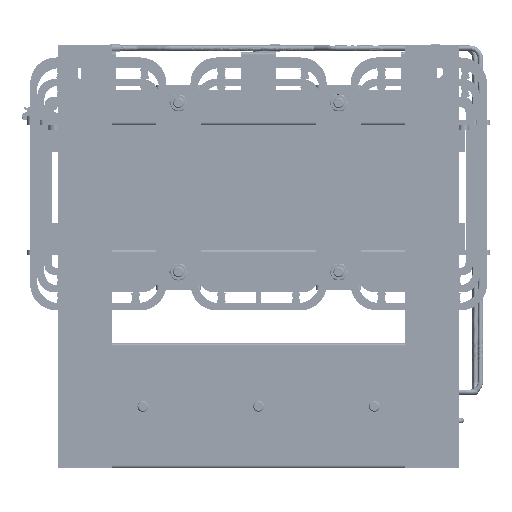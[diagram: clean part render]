
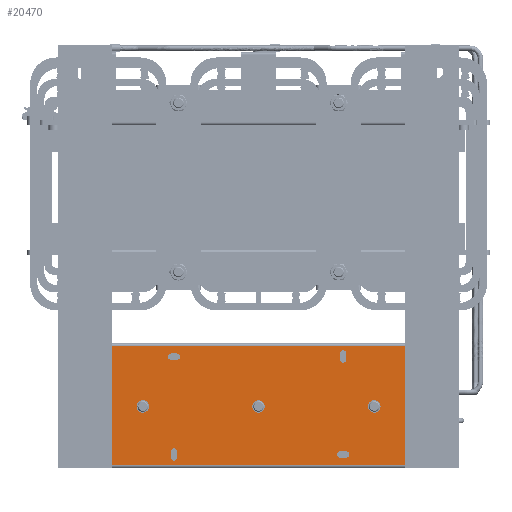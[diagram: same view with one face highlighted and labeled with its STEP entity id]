
A CAD part, front view. The second image highlights one B-rep face of the part: STEP entity #20470.
In plain terms, the highlighted planar face has unit normal (0, -1, 0).
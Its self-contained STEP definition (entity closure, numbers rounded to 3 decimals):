
#20470=ADVANCED_FACE('',(#32654,#32656,#32658,#32660,#32662,#32664,#32666,#32668,
#32670,#32672,#32674,#32676),#32678,.F.);
#32654=FACE_BOUND('',#32655,.T.);
#32655=EDGE_LOOP('',(#45828,#45829,#45830,#45831));
#32656=FACE_BOUND('',#32657,.T.);
#32657=EDGE_LOOP('',(#45832));
#32658=FACE_BOUND('',#32659,.T.);
#32659=EDGE_LOOP('',(#45833,#45834,#45835,#45836));
#32660=FACE_BOUND('',#32661,.T.);
#32661=EDGE_LOOP('',(#45837,#45838,#45839,#45840));
#32662=FACE_BOUND('',#32663,.T.);
#32663=EDGE_LOOP('',(#45841,#45842,#45843,#45844));
#32664=FACE_BOUND('',#32665,.T.);
#32665=EDGE_LOOP('',(#45845));
#32666=FACE_BOUND('',#32667,.T.);
#32667=EDGE_LOOP('',(#45846));
#32668=FACE_BOUND('',#32669,.T.);
#32669=EDGE_LOOP('',(#45847));
#32670=FACE_BOUND('',#32671,.T.);
#32671=EDGE_LOOP('',(#45848,#45849,#45850,#45851));
#32672=FACE_BOUND('',#32673,.T.);
#32673=EDGE_LOOP('',(#45852));
#32674=FACE_BOUND('',#32675,.T.);
#32675=EDGE_LOOP('',(#45853));
#32676=FACE_BOUND('',#32677,.T.);
#32677=EDGE_LOOP('',(#45854));
#32678=PLANE('',#32679);
#32679=AXIS2_PLACEMENT_3D('',#32680,#32681,#32682);
#32680=CARTESIAN_POINT('',(-137.,-60.,215.));
#32681=DIRECTION('',(0.,1.,0.));
#32682=DIRECTION('',(-1.,0.,0.));
#45828=ORIENTED_EDGE('',*,*,#49916,.F.);
#45829=ORIENTED_EDGE('',*,*,#50010,.T.);
#45830=ORIENTED_EDGE('',*,*,#49926,.T.);
#45831=ORIENTED_EDGE('',*,*,#50011,.T.);
#45832=ORIENTED_EDGE('',*,*,#49751,.F.);
#45833=ORIENTED_EDGE('',*,*,#50012,.F.);
#45834=ORIENTED_EDGE('',*,*,#49753,.F.);
#45835=ORIENTED_EDGE('',*,*,#50013,.F.);
#45836=ORIENTED_EDGE('',*,*,#50014,.F.);
#45837=ORIENTED_EDGE('',*,*,#50015,.F.);
#45838=ORIENTED_EDGE('',*,*,#50016,.F.);
#45839=ORIENTED_EDGE('',*,*,#50017,.F.);
#45840=ORIENTED_EDGE('',*,*,#50018,.F.);
#45841=ORIENTED_EDGE('',*,*,#50019,.F.);
#45842=ORIENTED_EDGE('',*,*,#50020,.F.);
#45843=ORIENTED_EDGE('',*,*,#50021,.F.);
#45844=ORIENTED_EDGE('',*,*,#50022,.F.);
#45845=ORIENTED_EDGE('',*,*,#49757,.F.);
#45846=ORIENTED_EDGE('',*,*,#49759,.F.);
#45847=ORIENTED_EDGE('',*,*,#49761,.F.);
#45848=ORIENTED_EDGE('',*,*,#50023,.F.);
#45849=ORIENTED_EDGE('',*,*,#49763,.F.);
#45850=ORIENTED_EDGE('',*,*,#50024,.F.);
#45851=ORIENTED_EDGE('',*,*,#50025,.F.);
#45852=ORIENTED_EDGE('',*,*,#49903,.T.);
#45853=ORIENTED_EDGE('',*,*,#49905,.T.);
#45854=ORIENTED_EDGE('',*,*,#49907,.T.);
#49751=EDGE_CURVE('',#54789,#54789,#54790,.T.);
#49753=EDGE_CURVE('',#54792,#54794,#54795,.T.);
#49757=EDGE_CURVE('',#54801,#54801,#54802,.T.);
#49759=EDGE_CURVE('',#54805,#54805,#54806,.T.);
#49761=EDGE_CURVE('',#54809,#54809,#54810,.T.);
#49763=EDGE_CURVE('',#54812,#54814,#54815,.T.);
#49903=EDGE_CURVE('',#55093,#55093,#55094,.T.);
#49905=EDGE_CURVE('',#55097,#55097,#55098,.T.);
#49907=EDGE_CURVE('',#55101,#55101,#55102,.T.);
#49916=EDGE_CURVE('',#55118,#55120,#55121,.T.);
#49926=EDGE_CURVE('',#55139,#55140,#55141,.T.);
#50010=EDGE_CURVE('',#55118,#55139,#55279,.T.);
#50011=EDGE_CURVE('',#55140,#55120,#55280,.T.);
#50012=EDGE_CURVE('',#54794,#55281,#55282,.T.);
#50013=EDGE_CURVE('',#55283,#54792,#55284,.T.);
#50014=EDGE_CURVE('',#55281,#55283,#55285,.T.);
#50015=EDGE_CURVE('',#55286,#55287,#55288,.T.);
#50016=EDGE_CURVE('',#55289,#55286,#55290,.T.);
#50017=EDGE_CURVE('',#55291,#55289,#55292,.T.);
#50018=EDGE_CURVE('',#55287,#55291,#55293,.T.);
#50019=EDGE_CURVE('',#55294,#55295,#55296,.T.);
#50020=EDGE_CURVE('',#55297,#55294,#55298,.T.);
#50021=EDGE_CURVE('',#55299,#55297,#55300,.T.);
#50022=EDGE_CURVE('',#55295,#55299,#55301,.T.);
#50023=EDGE_CURVE('',#54814,#55302,#55303,.T.);
#50024=EDGE_CURVE('',#55304,#54812,#55305,.T.);
#50025=EDGE_CURVE('',#55302,#55304,#55306,.T.);
#54789=VERTEX_POINT('',#72521);
#54790=CIRCLE('',#72522,3.5);
#54792=VERTEX_POINT('',#72527);
#54794=VERTEX_POINT('',#72531);
#54795=CIRCLE('',#72532,3.5);
#54801=VERTEX_POINT('',#72549);
#54802=CIRCLE('',#72550,3.5);
#54805=VERTEX_POINT('',#72559);
#54806=CIRCLE('',#72560,3.5);
#54809=VERTEX_POINT('',#72569);
#54810=CIRCLE('',#72570,3.5);
#54812=VERTEX_POINT('',#72575);
#54814=VERTEX_POINT('',#72579);
#54815=CIRCLE('',#72580,3.5);
#55093=VERTEX_POINT('',#73857);
#55094=CIRCLE('',#73858,7.);
#55097=VERTEX_POINT('',#73867);
#55098=CIRCLE('',#73868,7.);
#55101=VERTEX_POINT('',#73877);
#55102=CIRCLE('',#73878,7.);
#55118=VERTEX_POINT('',#73917);
#55120=VERTEX_POINT('',#73922);
#55121=LINE('',#73923,#73924);
#55139=VERTEX_POINT('',#73964);
#55140=VERTEX_POINT('',#73965);
#55141=LINE('',#73966,#73967);
#55279=LINE('',#74298,#74299);
#55280=LINE('',#74301,#74302);
#55281=VERTEX_POINT('',#74304);
#55282=LINE('',#74305,#74306);
#55283=VERTEX_POINT('',#74308);
#55284=LINE('',#74309,#74310);
#55285=CIRCLE('',#74312,3.5);
#55286=VERTEX_POINT('',#74316);
#55287=VERTEX_POINT('',#74317);
#55288=LINE('',#74318,#74319);
#55289=VERTEX_POINT('',#74321);
#55290=CIRCLE('',#74322,3.5);
#55291=VERTEX_POINT('',#74326);
#55292=LINE('',#74327,#74328);
#55293=CIRCLE('',#74330,3.5);
#55294=VERTEX_POINT('',#74334);
#55295=VERTEX_POINT('',#74335);
#55296=LINE('',#74336,#74337);
#55297=VERTEX_POINT('',#74339);
#55298=CIRCLE('',#74340,3.5);
#55299=VERTEX_POINT('',#74344);
#55300=LINE('',#74345,#74346);
#55301=CIRCLE('',#74348,3.5);
#55302=VERTEX_POINT('',#74352);
#55303=LINE('',#74353,#74354);
#55304=VERTEX_POINT('',#74356);
#55305=LINE('',#74357,#74358);
#55306=CIRCLE('',#74360,3.5);
#72521=CARTESIAN_POINT('',(-12.,-60.,196.5));
#72522=AXIS2_PLACEMENT_3D('',#72523,#72524,#72525);
#72523=CARTESIAN_POINT('',(-12.,-60.,200.));
#72524=DIRECTION('',(0.,-1.,0.));
#72525=DIRECTION('',(0.,0.,1.));
#72527=CARTESIAN_POINT('',(-15.5,-60.,91.5));
#72531=CARTESIAN_POINT('',(-8.5,-60.,91.5));
#72532=AXIS2_PLACEMENT_3D('',#72533,#72534,#72535);
#72533=CARTESIAN_POINT('',(-12.,-60.,91.5));
#72534=DIRECTION('',(0.,-1.,0.));
#72535=DIRECTION('',(-1.,0.,0.));
#72549=CARTESIAN_POINT('',(-122.,-60.,196.5));
#72550=AXIS2_PLACEMENT_3D('',#72551,#72552,#72553);
#72551=CARTESIAN_POINT('',(-122.,-60.,200.));
#72552=DIRECTION('',(0.,-1.,0.));
#72553=DIRECTION('',(0.,0.,1.));
#72559=CARTESIAN_POINT('',(-122.,-60.,-203.5));
#72560=AXIS2_PLACEMENT_3D('',#72561,#72562,#72563);
#72561=CARTESIAN_POINT('',(-122.,-60.,-200.));
#72562=DIRECTION('',(0.,-1.,0.));
#72563=DIRECTION('',(0.,0.,1.));
#72569=CARTESIAN_POINT('',(-12.,-60.,-203.5));
#72570=AXIS2_PLACEMENT_3D('',#72571,#72572,#72573);
#72571=CARTESIAN_POINT('',(-12.,-60.,-200.));
#72572=DIRECTION('',(0.,-1.,0.));
#72573=DIRECTION('',(0.,0.,1.));
#72575=CARTESIAN_POINT('',(-125.5,-60.,-98.5));
#72579=CARTESIAN_POINT('',(-118.5,-60.,-98.5));
#72580=AXIS2_PLACEMENT_3D('',#72581,#72582,#72583);
#72581=CARTESIAN_POINT('',(-122.,-60.,-98.5));
#72582=DIRECTION('',(0.,-1.,0.));
#72583=DIRECTION('',(-1.,0.,0.));
#73857=CARTESIAN_POINT('',(-68.,-60.,137.));
#73858=AXIS2_PLACEMENT_3D('',#73859,#73860,#73861);
#73859=CARTESIAN_POINT('',(-68.,-60.,130.));
#73860=DIRECTION('',(0.,1.,0.));
#73861=DIRECTION('',(0.,0.,-1.));
#73867=CARTESIAN_POINT('',(-68.,-60.,-123.));
#73868=AXIS2_PLACEMENT_3D('',#73869,#73870,#73871);
#73869=CARTESIAN_POINT('',(-68.,-60.,-130.));
#73870=DIRECTION('',(0.,1.,0.));
#73871=DIRECTION('',(0.,0.,-1.));
#73877=CARTESIAN_POINT('',(-68.,-60.,7.));
#73878=AXIS2_PLACEMENT_3D('',#73879,#73880,#73881);
#73879=CARTESIAN_POINT('',(-68.,-60.,0.));
#73880=DIRECTION('',(0.,1.,0.));
#73881=DIRECTION('',(0.,0.,-1.));
#73917=CARTESIAN_POINT('',(-134.,-60.,215.));
#73922=CARTESIAN_POINT('',(0.,-60.,215.));
#73923=CARTESIAN_POINT('',(-134.,-60.,215.));
#73924=VECTOR('',#73925,1.);
#73925=DIRECTION('',(1.,0.,0.));
#73964=CARTESIAN_POINT('',(-134.,-60.,-215.));
#73965=CARTESIAN_POINT('',(0.,-60.,-215.));
#73966=CARTESIAN_POINT('',(-134.,-60.,-215.));
#73967=VECTOR('',#73968,1.);
#73968=DIRECTION('',(1.,0.,0.));
#74298=CARTESIAN_POINT('',(-134.,-60.,215.));
#74299=VECTOR('',#74300,1.);
#74300=DIRECTION('',(0.,0.,-1.));
#74301=CARTESIAN_POINT('',(0.,-60.,-215.));
#74302=VECTOR('',#74303,1.);
#74303=DIRECTION('',(0.,0.,1.));
#74304=CARTESIAN_POINT('',(-8.5,-60.,98.5));
#74305=CARTESIAN_POINT('',(-8.5,-60.,91.5));
#74306=VECTOR('',#74307,1.);
#74307=DIRECTION('',(0.,0.,1.));
#74308=CARTESIAN_POINT('',(-15.5,-60.,98.5));
#74309=CARTESIAN_POINT('',(-15.5,-60.,98.5));
#74310=VECTOR('',#74311,1.);
#74311=DIRECTION('',(0.,0.,-1.));
#74312=AXIS2_PLACEMENT_3D('',#74313,#74314,#74315);
#74313=CARTESIAN_POINT('',(-12.,-60.,98.5));
#74314=DIRECTION('',(0.,-1.,0.));
#74315=DIRECTION('',(1.,0.,0.));
#74316=CARTESIAN_POINT('',(-125.5,-60.,91.5));
#74317=CARTESIAN_POINT('',(-118.5,-60.,91.5));
#74318=CARTESIAN_POINT('',(-125.5,-60.,91.5));
#74319=VECTOR('',#74320,1.);
#74320=DIRECTION('',(1.,0.,0.));
#74321=CARTESIAN_POINT('',(-125.5,-60.,98.5));
#74322=AXIS2_PLACEMENT_3D('',#74323,#74324,#74325);
#74323=CARTESIAN_POINT('',(-125.5,-60.,95.));
#74324=DIRECTION('',(0.,-1.,0.));
#74325=DIRECTION('',(0.,0.,1.));
#74326=CARTESIAN_POINT('',(-118.5,-60.,98.5));
#74327=CARTESIAN_POINT('',(-118.5,-60.,98.5));
#74328=VECTOR('',#74329,1.);
#74329=DIRECTION('',(-1.,0.,0.));
#74330=AXIS2_PLACEMENT_3D('',#74331,#74332,#74333);
#74331=CARTESIAN_POINT('',(-118.5,-60.,95.));
#74332=DIRECTION('',(0.,-1.,0.));
#74333=DIRECTION('',(0.,0.,-1.));
#74334=CARTESIAN_POINT('',(-15.5,-60.,-98.5));
#74335=CARTESIAN_POINT('',(-8.5,-60.,-98.5));
#74336=CARTESIAN_POINT('',(-15.5,-60.,-98.5));
#74337=VECTOR('',#74338,1.);
#74338=DIRECTION('',(1.,0.,0.));
#74339=CARTESIAN_POINT('',(-15.5,-60.,-91.5));
#74340=AXIS2_PLACEMENT_3D('',#74341,#74342,#74343);
#74341=CARTESIAN_POINT('',(-15.5,-60.,-95.));
#74342=DIRECTION('',(0.,-1.,0.));
#74343=DIRECTION('',(0.,0.,1.));
#74344=CARTESIAN_POINT('',(-8.5,-60.,-91.5));
#74345=CARTESIAN_POINT('',(-8.5,-60.,-91.5));
#74346=VECTOR('',#74347,1.);
#74347=DIRECTION('',(-1.,0.,0.));
#74348=AXIS2_PLACEMENT_3D('',#74349,#74350,#74351);
#74349=CARTESIAN_POINT('',(-8.5,-60.,-95.));
#74350=DIRECTION('',(0.,-1.,0.));
#74351=DIRECTION('',(0.,0.,-1.));
#74352=CARTESIAN_POINT('',(-118.5,-60.,-91.5));
#74353=CARTESIAN_POINT('',(-118.5,-60.,-98.5));
#74354=VECTOR('',#74355,1.);
#74355=DIRECTION('',(0.,0.,1.));
#74356=CARTESIAN_POINT('',(-125.5,-60.,-91.5));
#74357=CARTESIAN_POINT('',(-125.5,-60.,-91.5));
#74358=VECTOR('',#74359,1.);
#74359=DIRECTION('',(0.,0.,-1.));
#74360=AXIS2_PLACEMENT_3D('',#74361,#74362,#74363);
#74361=CARTESIAN_POINT('',(-122.,-60.,-91.5));
#74362=DIRECTION('',(0.,-1.,0.));
#74363=DIRECTION('',(1.,0.,0.));
